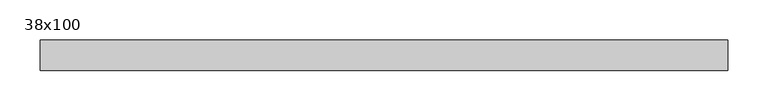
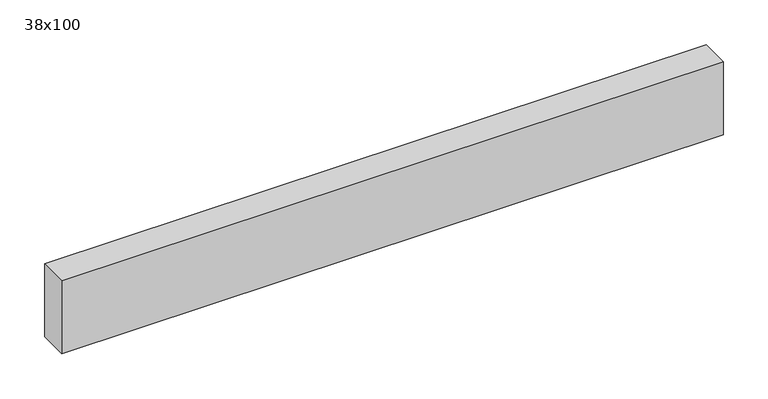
"""IFC4 building model written with IfcOpenShell, lengths in millimetres: beam geometry, Poutre - Bois de construction de dimensions courantes : 38x100."""

from ifc_helpers import new_model, si_unit, frame, origin, place, context, project, spatial, polyline, outline, extrude, source, transform, mapped, element, save


def beam_38x100_3a3dcd2b(model_context):
    return source(origin(), model_context, "Body", "SweptSolid", [
        extrude(outline(polyline([(553.0, 19.05), (553.0, -19.05), (-302.0, -19.05), (-302.0, 19.05), (553.0, 19.05)])), frame((0.0, 0.0, -50.0), z_axis=(0.0, 0.0, 1.0), x_axis=(1.0, 0.0, 0.0)), (0.0, 0.0, 1.0), 100.0),
    ])


if __name__ == "__main__":
    model = new_model("IFC4")
    model_context = context("Model", 3, world=origin())
    ifc_project = project(units=[si_unit("LENGTHUNIT", "METRE", prefix="MILLI")], contexts=[model_context])
    site = spatial("IfcSite", under=ifc_project)
    building = spatial("IfcBuilding", under=site)
    placement = place(None, origin())
    beam_38x100_shape = beam_38x100_3a3dcd2b(model_context)
    element("IfcBeam", 1, ObjectType="Poutre - Bois de construction de dimensions courantes : 38x100", at=placement, inside=building, context=model_context, shape_type="MappedRepresentation", body=[
        mapped(beam_38x100_shape, transform((0.0, 0.0, 0.0), x_axis=(1.0, 0.0, 0.0), y_axis=(0.0, 1.0, 0.0), z_axis=(0.0, 0.0, 1.0))),
    ])
    save(model, "model.ifc")
